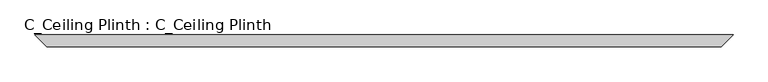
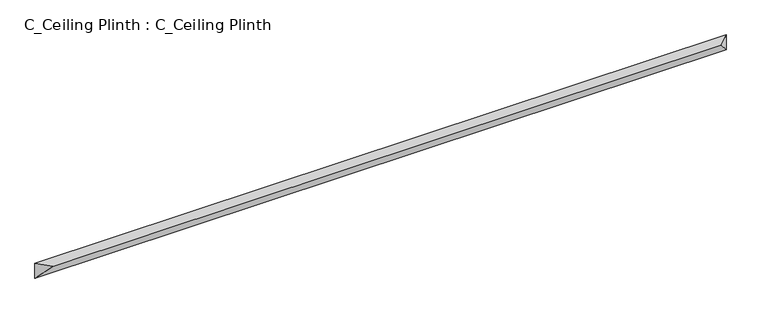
"""IFC4 building model written with IfcOpenShell, lengths in millimetres: proxy geometry, C_Ceiling Plinth : C_Ceiling Plinth."""

import ifcopenshell
import ifcopenshell.guid

model = None  # the IFC model being written
_history = None  # IfcOwnerHistory: only IFC2X3 demands one
_inside = {}  # id of a spatial element -> (the spatial element, [elements in it])
_under = {}  # id of a project, library or spatial element -> (it, [spatial elements below it])
_declared = {}  # id of a project -> (the project, [libraries it declares])
_typed = {}  # id of a type object -> (the type object, [elements of that type])
_made_of = {}  # id of a material, layer set ... -> (it, [elements and type objects made of it])


def new_model(schema):
    """Start an empty IFC model of exactly this schema.

    Asked for "IFC4X3", IfcOpenShell would pick the latest addendum, in which some entities
    have other attributes; the version numbers below select the first issue.
    IFC2X3 requires an IfcOwnerHistory on every rooted entity: one is made here for all.
    """
    global model, _history
    if schema == "IFC4X3":
        model = ifcopenshell.file(schema_version=(4, 3, 0, 0))
    else:
        model = ifcopenshell.file(schema=schema)
    _inside.clear()
    _under.clear()
    _declared.clear()
    _typed.clear()
    _made_of.clear()
    _history = None
    if model.schema == "IFC2X3":
        org = make("IfcOrganization", Name="unknown")
        user = make(
            "IfcPersonAndOrganization",
            ThePerson=make("IfcPerson", FamilyName="unknown"),
            TheOrganization=org,
        )
        app = make(
            "IfcApplication",
            ApplicationDeveloper=org,
            Version="unknown",
            ApplicationFullName="unknown",
            ApplicationIdentifier="unknown",
        )
        _history = make(
            "IfcOwnerHistory",
            OwningUser=user,
            OwningApplication=app,
            ChangeAction="ADDED",
            CreationDate=0,
        )
    return model


def make(cls, **values):
    """One entity of the class cls with the attributes given. An attribute that is None is left unset."""
    return model.create_entity(
        cls, **{name: value for name, value in values.items() if value is not None}
    )


def rooted(cls, **values):
    """An entity with a GlobalId (a new one), such as an element, a storey or a relation."""
    return make(cls, GlobalId=ifcopenshell.guid.new(), OwnerHistory=_history, **values)


def si_unit(unit_type, name, prefix=None):
    """IfcSIUnit, for example si_unit("LENGTHUNIT", "METRE", prefix="MILLI")."""
    return make("IfcSIUnit", UnitType=unit_type, Prefix=prefix, Name=name)


def assignment(units):
    """IfcUnitAssignment: the units of a project."""
    return None if units is None else make("IfcUnitAssignment", Units=units)


def point(xyz):
    """IfcCartesianPoint."""
    return None if xyz is None else make("IfcCartesianPoint", Coordinates=xyz)


def direction(xyz):
    """IfcDirection."""
    return None if xyz is None else make("IfcDirection", DirectionRatios=xyz)


def frame(location, z_axis=None, x_axis=None):
    """IfcAxis2Placement3D, a coordinate frame: its origin and axes. An axis left out is left unset."""
    return make(
        "IfcAxis2Placement3D",
        Location=point(location),
        Axis=direction(z_axis),
        RefDirection=direction(x_axis),
    )


def origin():
    """The frame at (0, 0, 0) with its axes left unset."""
    return frame((0.0, 0.0, 0.0))


def place(relative_to, where):
    """IfcLocalPlacement: puts the frame where relative to a parent placement (None: the world)."""
    return make(
        "IfcLocalPlacement", PlacementRelTo=relative_to, RelativePlacement=where
    )


def context(
    kind, dimensions, precision=None, world=None, true_north=None, identifier=None
):
    """IfcGeometricRepresentationContext, for example the 3D "Model" context."""
    return make(
        "IfcGeometricRepresentationContext",
        ContextIdentifier=identifier,
        ContextType=kind,
        CoordinateSpaceDimension=dimensions,
        Precision=precision,
        WorldCoordinateSystem=world,
        TrueNorth=true_north,
    )


def project(units=None, contexts=None):
    """IfcProject with its units and contexts."""
    return rooted(
        "IfcProject",
        Name="project",
        RepresentationContexts=contexts,
        UnitsInContext=assignment(units),
    )


def spatial(cls, under=None, at=None, **own):
    """A site, building, storey or space (cls), placed at a placement, below another one or the project."""
    s = rooted(cls, ObjectPlacement=at, **own)
    if under is not None:
        _under.setdefault(under.id(), (under, []))[1].append(s)
    return s


def faces_of(points, faces, orient=None, outer=None):
    """IfcFace entities. A face is a list of loops; a loop is a list of indices into points, from 0.

    orient and outer hold one flag for each loop. By default every Orientation is true, the
    first loop of a face is its IfcFaceOuterBound and the others are IfcFaceBound.
    """
    made = []
    for i, loops in enumerate(faces):
        bounds = []
        for j, loop in enumerate(loops):
            is_outer = j == 0 if outer is None else outer[i][j]
            bounds.append(
                make(
                    "IfcFaceOuterBound" if is_outer else "IfcFaceBound",
                    Bound=make("IfcPolyLoop", Polygon=[points[k] for k in loop]),
                    Orientation=True if orient is None else orient[i][j],
                )
            )
        made.append(make("IfcFace", Bounds=bounds))
    return made


def faceted_brep(points, faces, orient=None, outer=None, voids=None):
    """IfcFacetedBrep: a solid bounded by flat faces; with voids (closed shells), ...WithVoids."""
    shared = [point(p) for p in points]
    hull = make("IfcClosedShell", CfsFaces=faces_of(shared, faces, orient, outer))
    if voids is None:
        return make("IfcFacetedBrep", Outer=hull)
    return make(
        "IfcFacetedBrepWithVoids",
        Outer=hull,
        Voids=[
            make(cls, CfsFaces=faces_of(shared, fs, o, b)) for cls, fs, o, b in voids
        ],
    )


def shape(context_of_items, identifier, shape_type, items):
    """IfcShapeRepresentation: the items that make up one representation, for example the "Body"."""
    return make(
        "IfcShapeRepresentation",
        ContextOfItems=context_of_items,
        RepresentationIdentifier=identifier,
        RepresentationType=shape_type,
        Items=items,
    )


def source(mapping_origin, context_of_items, identifier, shape_type, items):
    """IfcRepresentationMap: a shape defined once, which mapped items show again and again."""
    return make(
        "IfcRepresentationMap",
        MappingOrigin=mapping_origin,
        MappedRepresentation=shape(context_of_items, identifier, shape_type, items),
    )


def transform(
    local_origin,
    x_axis=None,
    y_axis=None,
    z_axis=None,
    scale=None,
    scale2=None,
    scale3=None,
    uniform=True,
):
    """IfcCartesianTransformationOperator3D, or its non-uniform kind. x_axis, y_axis, z_axis: its Axis1, 2, 3."""
    if uniform:
        return make(
            "IfcCartesianTransformationOperator3D",
            Axis1=direction(x_axis),
            Axis2=direction(y_axis),
            LocalOrigin=point(local_origin),
            Scale=scale,
            Axis3=direction(z_axis),
        )
    return make(
        "IfcCartesianTransformationOperator3DnonUniform",
        Axis1=direction(x_axis),
        Axis2=direction(y_axis),
        LocalOrigin=point(local_origin),
        Scale=scale,
        Axis3=direction(z_axis),
        Scale2=scale2,
        Scale3=scale3,
    )


def mapped(mapping_source, mapping_target):
    """IfcMappedItem: shows the shape of a source again, moved by a transform."""
    return make(
        "IfcMappedItem", MappingSource=mapping_source, MappingTarget=mapping_target
    )


def made_of(thing, what):
    """Note that an element or type object is made of a material, layer set ...; save() writes the relation."""
    if what is not None:
        _made_of.setdefault(what.id(), (what, []))[1].append(thing)
    return thing


def element(
    cls,
    number,
    at=None,
    inside=None,
    cuts=None,
    type_object=None,
    material=None,
    context=None,
    identifier="Body",
    shape_type=None,
    held_by="IfcProductDefinitionShape",
    body=None,
    shapes=None,
    **own,
):
    """One element of the class cls, such as IfcWall. Its Tag is "e" and its number.

    at: its placement. inside: the storey or other place that contains it. cuts: it is an
    opening in that element (IfcRelVoidsElement). A single representation is given by context,
    identifier, shape_type and body (its items); several are given by shapes. held_by: the class
    of the entity that holds the representations. save() writes the other relations.
    """
    e = rooted(cls, Tag="e%d" % number, ObjectPlacement=at, **own)
    if body is not None:
        shapes = [shape(context, identifier, shape_type, body)]
    if shapes is not None:
        e.Representation = make(held_by, Representations=shapes)
    if inside is not None:
        _inside.setdefault(inside.id(), (inside, []))[1].append(e)
    if cuts is not None:
        rooted(
            "IfcRelVoidsElement", RelatingBuildingElement=cuts, RelatedOpeningElement=e
        )
    if type_object is not None:
        _typed.setdefault(type_object.id(), (type_object, []))[1].append(e)
    return made_of(e, material)


def aggregate(whole, parts):
    """IfcRelAggregates: a whole, such as a stair, and the parts it consists of."""
    return rooted("IfcRelAggregates", RelatingObject=whole, RelatedObjects=parts)


def save(model, path):
    """Write the relations noted so far, then the file.

    IfcRelAggregates (storeys below a building ...), IfcRelContainedInSpatialStructure (elements
    in a storey), IfcRelDefinesByType, IfcRelAssociatesMaterial and IfcRelDeclares: one each for
    every whole, place, type object, material and project.
    """
    for whole, parts in _under.values():
        aggregate(whole, parts)
    for where, things in _inside.values():
        rooted(
            "IfcRelContainedInSpatialStructure",
            RelatedElements=things,
            RelatingStructure=where,
        )
    for kind, things in _typed.values():
        rooted("IfcRelDefinesByType", RelatedObjects=things, RelatingType=kind)
    for what, things in _made_of.values():
        rooted("IfcRelAssociatesMaterial", RelatedObjects=things, RelatingMaterial=what)
    for by, libraries in _declared.values():
        rooted("IfcRelDeclares", RelatingContext=by, RelatedDefinitions=libraries)
    model.write(path)


def c_ceiling_plinth_c_ceiling_plinth_f940792f(model_context):
    return source(origin(), model_context, "Body", "Brep", [
        faceted_brep([(4521.2000009, 0.0, 0.0), (4521.2000009, 0.0, -101.6), (0.0, 0.0, -101.6), (0.0, 0.0, 0.0), (4445.0000009, -76.2, 0.0), (76.2, -76.2, 0.0)], [[[0, 1, 2, 3]], [[4, 0, 3, 5]], [[1, 4, 5, 2]], [[1, 0, 4]], [[3, 2, 5]]]),
    ])


if __name__ == "__main__":
    model = new_model("IFC4")
    model_context = context("Model", 3, world=origin())
    ifc_project = project(units=[si_unit("LENGTHUNIT", "METRE", prefix="MILLI")], contexts=[model_context])
    site = spatial("IfcSite", under=ifc_project)
    building = spatial("IfcBuilding", under=site)
    placement = place(None, origin())
    c_ceiling_plinth_c_ceiling_plinth_shape = c_ceiling_plinth_c_ceiling_plinth_f940792f(model_context)
    element("IfcBuildingElementProxy", 1, Name="C_Ceiling Plinth : C_Ceiling Plinth", ObjectType="C_Ceiling Plinth : C_Ceiling Plinth", at=placement, inside=building, context=model_context, shape_type="MappedRepresentation", body=[
        mapped(c_ceiling_plinth_c_ceiling_plinth_shape, transform((0.0, 0.0, 0.0), x_axis=(1.0, 0.0, 0.0), y_axis=(0.0, 1.0, 0.0), z_axis=(0.0, 0.0, 1.0))),
    ])
    save(model, "model.ifc")
